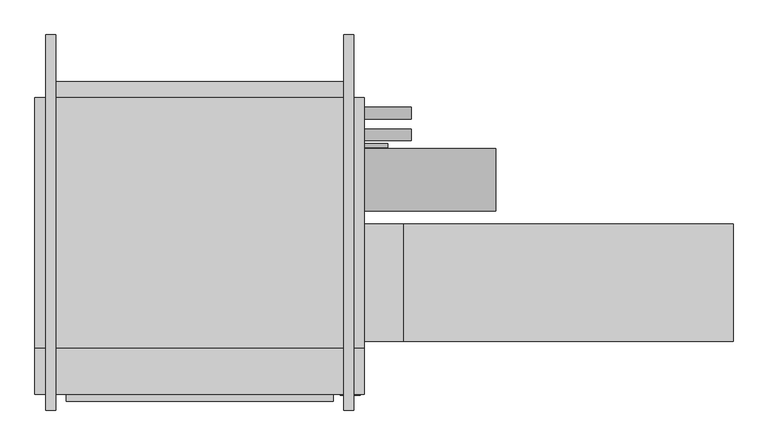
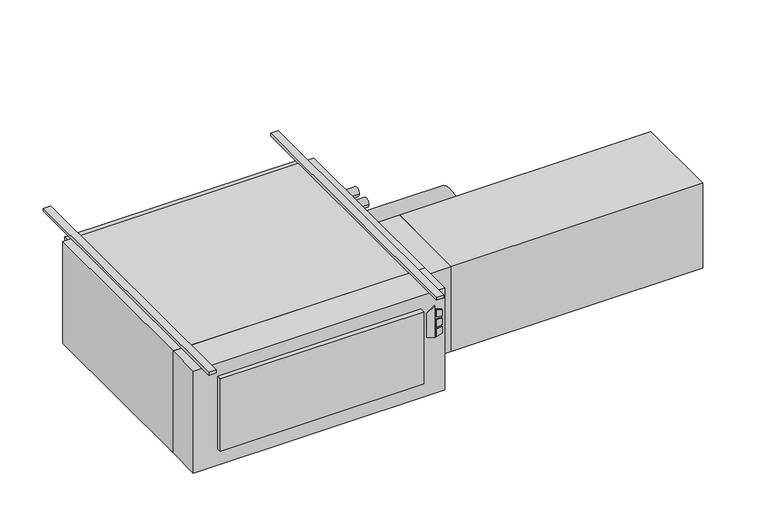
"""IFC4 building model written with IfcOpenShell, lengths in millimetres: proxy geometry."""

from ifc_helpers import new_model, si_unit, point, frame, frame_2d, origin, origin_with_axes, place, context, project, spatial, polyline, circle_curve, trimmed, segment, composite_curve, outline, extrude, source, transform, mapped, element, save


def mechanical_equipment_0e267f77(model_context):
    return source(origin(), model_context, "Body", "SweptSolid", [
        extrude(outline(polyline([(-193.2519297, 608.0868862), (-203.2, 640.2602728), (-61.0290756, 640.2602728), (-84.0510817, 608.0868862), (-193.2519297, 608.0868862)])), frame((0.0, -797.052, 0.0), z_axis=(0.0, 1.0, 0.0), x_axis=(0.0, 0.0, 1.0)), (0.0, 0.0, 1.0), 3.175),
        extrude(outline(polyline([(-114.2526443, 647.0186058), (-117.4550368, 673.1), (-88.2261958, 673.1), (-80.1617807, 647.0186058), (-114.2526443, 647.0186058)])), frame((0.0, -797.052, 0.0), z_axis=(0.0, 1.0, 0.0), x_axis=(0.0, 0.0, 1.0)), (0.0, 0.0, 1.0), 3.175),
        extrude(outline(polyline([(-166.1161712, 673.1), (-169.7816721, 647.0186058), (-203.2, 647.0186058), (-194.5657628, 673.1), (-166.1161712, 673.1)])), frame((0.0, -797.052, 0.0), z_axis=(0.0, 1.0, 0.0), x_axis=(0.0, 0.0, 1.0)), (0.0, 0.0, 1.0), 3.175),
        extrude(outline(polyline([(-126.8010097, 673.1), (-124.5191834, 647.0186058), (-160.4567319, 647.0186058), (-157.7154669, 673.1), (-126.8010097, 673.1)])), frame((0.0, -797.052, 0.0), z_axis=(0.0, 1.0, 0.0), x_axis=(0.0, 0.0, 1.0)), (0.0, 0.0, 1.0), 3.175),
        extrude(outline(polyline([(685.8, -793.877), (-381.0, -793.877), (-381.0, -644.525), (685.8, -644.525), (685.8, -793.877)])), frame((0.0, 0.0, -457.2), z_axis=(0.0, 0.0, 1.0), x_axis=(1.0, 0.0, 0.0)), (0.0, 0.0, 1.0), 457.2),
        extrude(outline(polyline([(584.2, -816.229), (-279.4, -816.229), (-279.4, -793.877), (584.2, -793.877), (584.2, -816.229)])), frame((0.0, 0.0, -381.0), z_axis=(0.0, 0.0, 1.0), x_axis=(1.0, 0.0, 0.0)), (0.0, 0.0, 1.0), 323.85),
        extrude(outline(polyline([(1879.6, -241.3), (1879.6, -622.3), (812.8, -622.3), (812.8, -241.3), (1879.6, -241.3)])), frame((0.0, 0.0, -431.8), z_axis=(0.0, 0.0, 1.0), x_axis=(1.0, 0.0, 0.0)), (0.0, 0.0, 1.0), 381.0),
        extrude(outline(polyline([(812.8, -241.3), (812.8, -622.3), (685.8, -622.3), (685.8, -241.3), (812.8, -241.3)])), frame((0.0, 0.0, -431.8), z_axis=(0.0, 0.0, 1.0), x_axis=(1.0, 0.0, 0.0)), (0.0, 0.0, 1.0), 381.0),
        extrude(outline(composite_curve([segment(trimmed(circle_curve(frame_2d((117.475, -171.45)), 19.05), [point((136.525, -171.45))], [point((98.425, -171.45))], False, "CARTESIAN"), True, "CONTINUOUS"), segment(trimmed(circle_curve(frame_2d((117.475, -171.45)), 19.05), [point((98.425, -171.45))], [point((136.525, -171.45))], False, "CARTESIAN"), True, "CONTINUOUS")], self_intersect=False)), frame((685.8, 0.0, 0.0), z_axis=(1.0, 0.0, 0.0), x_axis=(0.0, 1.0, 0.0)), (0.0, 0.0, 1.0), 152.4),
        extrude(outline(composite_curve([segment(trimmed(circle_curve(frame_2d((47.625, -177.8)), 19.05), [point((66.675, -177.8))], [point((28.575, -177.8))], False, "CARTESIAN"), True, "CONTINUOUS"), segment(trimmed(circle_curve(frame_2d((47.625, -177.8)), 19.05), [point((28.575, -177.8))], [point((66.675, -177.8))], False, "CARTESIAN"), True, "CONTINUOUS")], self_intersect=False)), frame((685.8, 0.0, 0.0), z_axis=(1.0, 0.0, 0.0), x_axis=(0.0, 1.0, 0.0)), (0.0, 0.0, 1.0), 152.4),
        extrude(outline(composite_curve([segment(trimmed(circle_curve(frame_2d((-98.4896516, -228.6360165)), 101.6), [point((3.1103484, -228.6360165))], [point((-200.0896516, -228.6360165))], False, "CARTESIAN"), True, "CONTINUOUS"), segment(trimmed(circle_curve(frame_2d((-98.4896516, -228.6360165)), 101.6), [point((-200.0896516, -228.6360165))], [point((3.1103484, -228.6360165))], False, "CARTESIAN"), True, "CONTINUOUS")], self_intersect=False)), frame((685.8, 0.0, 0.0), z_axis=(1.0, 0.0, 0.0), x_axis=(0.0, 1.0, 0.0)), (0.0, 0.0, 1.0), 425.45),
        extrude(outline(composite_curve([segment(trimmed(circle_curve(frame_2d((12.7, -409.575)), 6.35), [point((19.05, -409.575))], [point((6.35, -409.575))], False, "CARTESIAN"), True, "CONTINUOUS"), segment(trimmed(circle_curve(frame_2d((12.7, -409.575)), 6.35), [point((6.35, -409.575))], [point((19.05, -409.575))], False, "CARTESIAN"), True, "CONTINUOUS")], self_intersect=False)), frame((685.8, 0.0, 0.0), z_axis=(1.0, 0.0, 0.0), x_axis=(0.0, 1.0, 0.0)), (0.0, 0.0, 1.0), 76.2),
        extrude(outline(polyline([(685.8, 168.275), (685.8, -644.525), (-381.0, -644.525), (-381.0, 168.275), (685.8, 168.275)])), frame((0.0, 0.0, -457.2), z_axis=(0.0, 0.0, 1.0), x_axis=(1.0, 0.0, 0.0)), (0.0, 0.0, 1.0), 457.2),
        extrude(outline(polyline([(-342.9, 219.075), (647.7, 219.075), (647.7, 168.275), (-342.9, 168.275), (-342.9, 219.075)])), frame((0.0, 0.0, -381.0), z_axis=(0.0, 0.0, 1.0), x_axis=(1.0, 0.0, 0.0)), (0.0, 0.0, 1.0), 355.6),
        extrude(outline(polyline([(-314.325, 371.475), (-314.325, -844.677), (-346.075, -844.677), (-346.075, 371.475), (-314.325, 371.475)])), origin_with_axes(), (0.0, 0.0, 1.0), 12.7),
        extrude(outline(polyline([(650.875, 371.475), (650.875, -844.677), (619.125, -844.677), (619.125, 371.475), (650.875, 371.475)])), origin_with_axes(), (0.0, 0.0, 1.0), 12.7),
    ])


if __name__ == "__main__":
    model = new_model("IFC4")
    model_context = context("Model", 3, world=origin())
    ifc_project = project(units=[si_unit("LENGTHUNIT", "METRE", prefix="MILLI")], contexts=[model_context])
    site = spatial("IfcSite", under=ifc_project)
    building = spatial("IfcBuilding", under=site)
    placement = place(None, origin())
    mechanical_equipment_shape = mechanical_equipment_0e267f77(model_context)
    element("IfcBuildingElementProxy", 1, Name="High_Capacity_Horizontal_Cabinet_Fan_Coil_Unit_-_HTY_-_IEC_-_2 Pipe, Elec Heat_RH Side_2022 : Size 14 - 277v/60Hz/1Ph - 8/0 Coil 10.0kW - 8\" AirIn", ObjectType="High_Capacity_Horizontal_Cabinet_Fan_Coil_Unit_-_HTY_-_IEC_-_2 Pipe, Elec Heat_RH Side_2022 : Size 14 - 277v/60Hz/1Ph - 8/0 Coil 10.0kW - 8\" AirIn", at=placement, inside=building, context=model_context, shape_type="MappedRepresentation", body=[
        mapped(mechanical_equipment_shape, transform((0.0, 0.0, 0.0), x_axis=(1.0, 0.0, 0.0), y_axis=(0.0, 1.0, 0.0), z_axis=(0.0, 0.0, 1.0))),
    ])
    save(model, "model.ifc")
